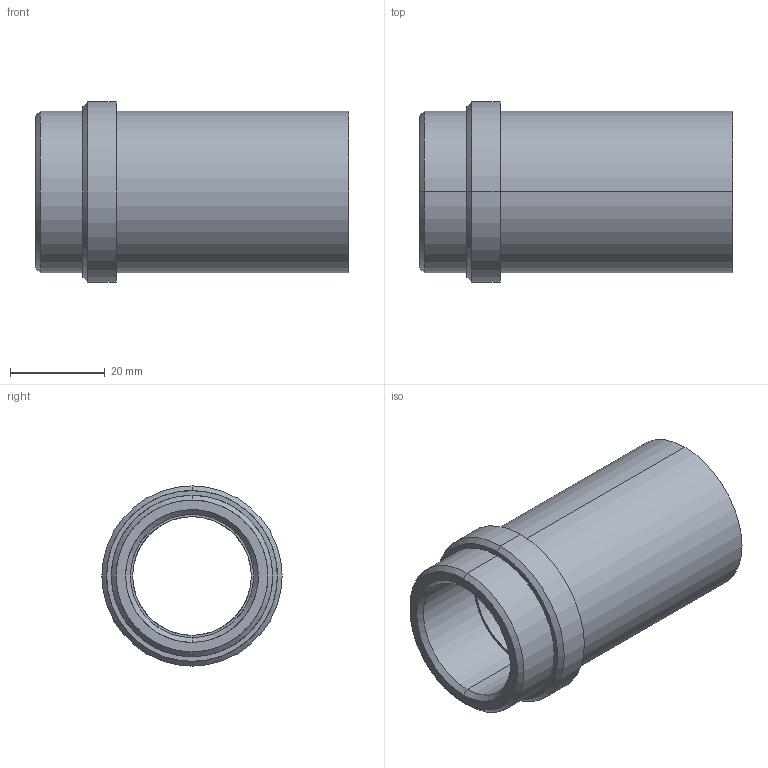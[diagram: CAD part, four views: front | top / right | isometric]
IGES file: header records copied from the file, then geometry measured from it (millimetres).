
Start section: START RECORD GO HERE.
Global section: file name: 358-25x66.igs; native system: DASSAULT SYSTEMES CATIA V5 R20 - www.3ds.com; preprocessor: CATIA Version 5 Release 20 ; author: Utente; organization: NB04-ASUS; date: 20210409.152119; units: millimetre
Bounding box: 66 x 38 x 38 mm (x, y, z)
Surface area: 13410.8 mm2 (no closed solid volume)
Topology: 0 solids, 0 shells, 23 faces, 148 edges, 148 vertices
Faces by surface type: revolution 18, plane 5
